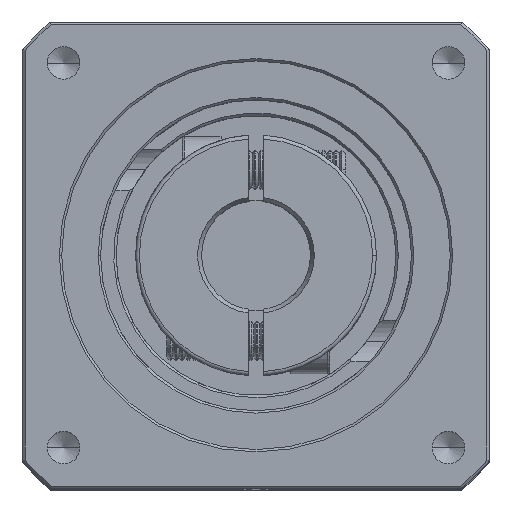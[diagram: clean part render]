
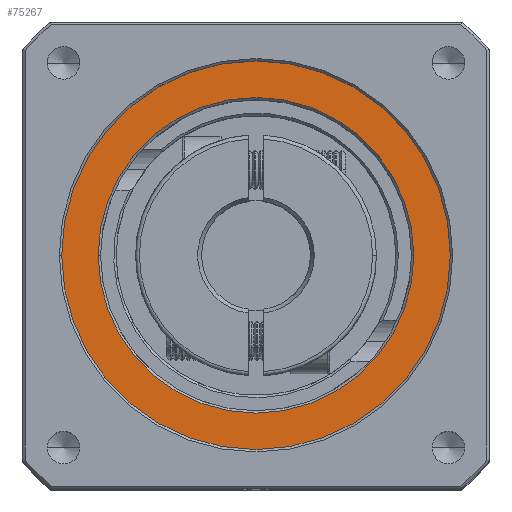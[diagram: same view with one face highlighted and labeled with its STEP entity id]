
A CAD part, top view. The second image highlights one B-rep face of the part: STEP entity #75267.
In plain terms, the highlighted planar face has unit normal (0, 0, 1).
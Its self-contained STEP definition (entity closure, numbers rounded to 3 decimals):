
#1799 = DIRECTION ( 'NONE',  ( 1., 0., 0. ) ) ;
#3874 = EDGE_LOOP ( 'NONE', ( #42466, #13092 ) ) ;
#5350 = AXIS2_PLACEMENT_3D ( 'NONE', #81519, #41716, #1799 ) ;
#7101 = CIRCLE ( 'NONE', #5350, 20.3 ) ;
#8154 = EDGE_CURVE ( 'NONE', #23329, #31002, #32309, .T. ) ;
#10862 = DIRECTION ( 'NONE',  ( 0., 0., 1. ) ) ;
#13092 = ORIENTED_EDGE ( 'NONE', *, *, #39430, .T. ) ;
#13417 = CARTESIAN_POINT ( 'NONE',  ( -41.857, 27.835, 27.243 ) ) ;
#16982 = PLANE ( 'NONE',  #82342 ) ;
#17143 = CARTESIAN_POINT ( 'NONE',  ( -62.157, 27.835, 27.243 ) ) ;
#18014 = FACE_OUTER_BOUND ( 'NONE', #30946, .T. ) ;
#19771 = AXIS2_PLACEMENT_3D ( 'NONE', #34804, #81287, #41487 ) ;
#20145 = FACE_BOUND ( 'NONE', #3874, .T. ) ;
#23329 = VERTEX_POINT ( 'NONE', #76053 ) ;
#23855 = DIRECTION ( 'NONE',  ( 1., 0., 0. ) ) ;
#30946 = EDGE_LOOP ( 'NONE', ( #69303, #55453 ) ) ;
#31002 = VERTEX_POINT ( 'NONE', #72008 ) ;
#32309 = CIRCLE ( 'NONE', #19771, 25. ) ;
#34804 = CARTESIAN_POINT ( 'NONE',  ( -62.157, 27.835, 27.243 ) ) ;
#37979 = CARTESIAN_POINT ( 'NONE',  ( -62.157, 27.835, 27.243 ) ) ;
#39430 = EDGE_CURVE ( 'NONE', #63574, #64320, #7101, .T. ) ;
#41487 = DIRECTION ( 'NONE',  ( 1., 0., 0. ) ) ;
#41716 = DIRECTION ( 'NONE',  ( 0., 0., -1. ) ) ;
#42466 = ORIENTED_EDGE ( 'NONE', *, *, #51499, .T. ) ;
#44700 = DIRECTION ( 'NONE',  ( 1., 0., 0. ) ) ;
#45915 = CIRCLE ( 'NONE', #51100, 25. ) ;
#48147 = AXIS2_PLACEMENT_3D ( 'NONE', #17143, #63754, #23855 ) ;
#50803 = CARTESIAN_POINT ( 'NONE',  ( -62.157, 27.835, 27.243 ) ) ;
#51100 = AXIS2_PLACEMENT_3D ( 'NONE', #37979, #84316, #44700 ) ;
#51499 = EDGE_CURVE ( 'NONE', #64320, #63574, #75747, .T. ) ;
#52552 = EDGE_CURVE ( 'NONE', #31002, #23329, #45915, .T. ) ;
#55453 = ORIENTED_EDGE ( 'NONE', *, *, #52552, .T. ) ;
#57541 = DIRECTION ( 'NONE',  ( 1., 0., 0. ) ) ;
#63574 = VERTEX_POINT ( 'NONE', #64007 ) ;
#63754 = DIRECTION ( 'NONE',  ( 0., 0., -1. ) ) ;
#64007 = CARTESIAN_POINT ( 'NONE',  ( -82.457, 27.835, 27.243 ) ) ;
#64320 = VERTEX_POINT ( 'NONE', #13417 ) ;
#69303 = ORIENTED_EDGE ( 'NONE', *, *, #8154, .T. ) ;
#72008 = CARTESIAN_POINT ( 'NONE',  ( -87.157, 27.835, 27.243 ) ) ;
#75267 = ADVANCED_FACE ( 'NONE', ( #20145, #18014 ), #16982, .T. ) ;
#75747 = CIRCLE ( 'NONE', #48147, 20.3 ) ;
#76053 = CARTESIAN_POINT ( 'NONE',  ( -37.157, 27.835, 27.243 ) ) ;
#81287 = DIRECTION ( 'NONE',  ( 0., 0., 1. ) ) ;
#81519 = CARTESIAN_POINT ( 'NONE',  ( -62.157, 27.835, 27.243 ) ) ;
#82342 = AXIS2_PLACEMENT_3D ( 'NONE', #50803, #10862, #57541 ) ;
#84316 = DIRECTION ( 'NONE',  ( 0., 0., 1. ) ) ;
